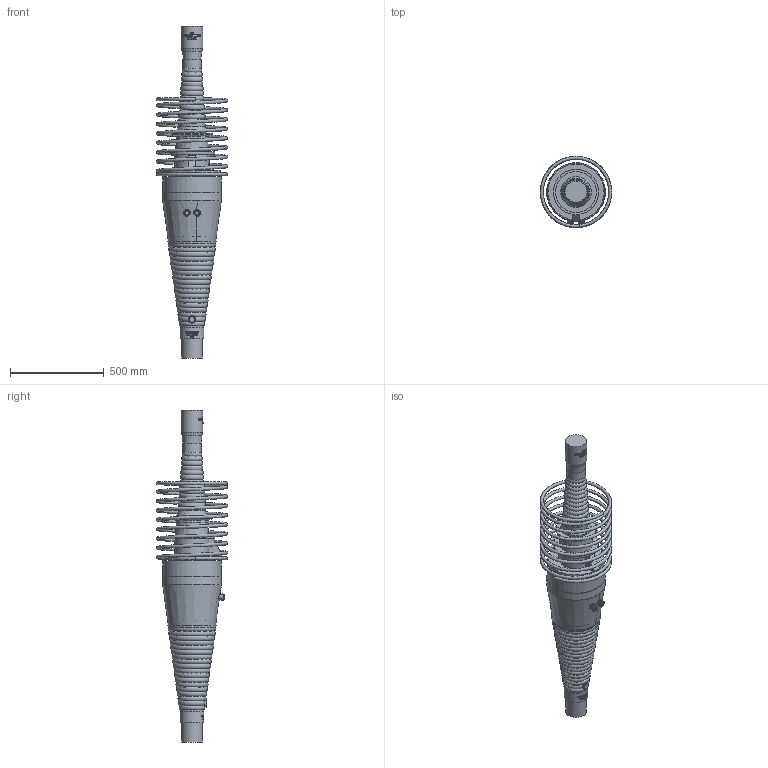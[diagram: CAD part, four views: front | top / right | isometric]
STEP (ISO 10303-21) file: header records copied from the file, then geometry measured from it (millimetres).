
FILE_DESCRIPTION(/* description */ (''),/* implementation_level */ '2;1');
FILE_NAME(/* name */ 'Z:\IDA\BBV\DE\410 Technik_Zulassungen-Verfahren\21 BBV - Hompage\Dateien für Vito Mediavilla\BBV LITZENSPANNVERFAHREN MIT VERBUND\FÜK - feste Übergreifungskopplung\Z-13.1-114.FÜK.019.00 FÜK L19i.stp',/* time_stamp */ '2023-08-21T14:24:25+02:00',/* author */ ('klukas'),/* organization */ (''),/* preprocessor_version */ 'ST-DEVELOPER v18.1',/* originating_system */ 'Autodesk Inventor 2021',/* authorisation */ '');
FILE_SCHEMA (('AUTOMOTIVE_DESIGN { 1 0 10303 214 3 1 1 }'));
Products named in the file (1): Z-13.1-114.FÜK.019.00 FÜK L19 i
Bounding box: 379.97 x 379.96 x 1772.4 mm (x, y, z)
Volume: 40539944.7 mm3; surface area: 2373303.7 mm2
Topology: 7 solids, 7 shells, 753 faces, 1970 edges, 1289 vertices
Faces by surface type: bspline 361, plane 233, cylinder 105, torus 32, cone 22
Full cylindrical faces by diameter (mm): 10 x1, 14.63 x1, 28 x14, 32 x1, 33 x2, 39 x1, 99 x1, 108 x1, 114 x1, 125 x1, 139.877 x1, 146 x3, 165 x1, 166.004 x1, 217 x1, 220 x2, 241 x1, 258 x1, 310 x1, 311 x1, 314 x1
Entity records: 104316 total; most frequent: CARTESIAN_POINT 87668, ORIENTED_EDGE 3944, DIRECTION 2051, EDGE_CURVE 1972, VERTEX_POINT 1289, B_SPLINE_CURVE_WITH_KNOTS 962, EDGE_LOOP 825, STYLED_ITEM 760
